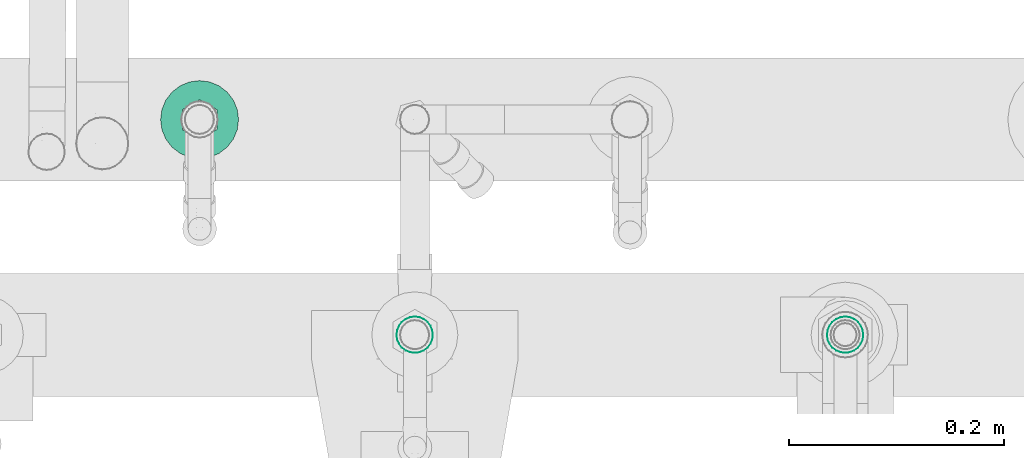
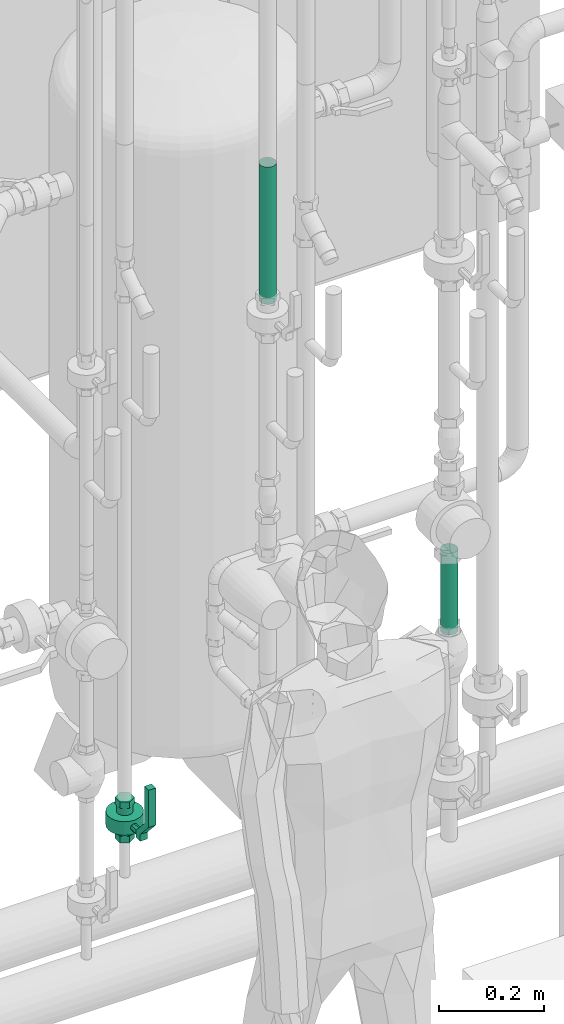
# One storey, part 270 of 374: 2 flow segments, 1 flow controller.
"""IFC2X3 building model written with IfcOpenShell, lengths in metres."""

from ifc_helpers import new_model, si_unit, direction, origin, place, context, subcontext, project, spatial, open_shell, surface_model, source, transform, mapped, element, save


model = new_model("IFC2X3")

# Units and contexts
model_context = context("Model", 3, precision=1e-05, world=origin(), true_north=direction((-0.4480736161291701, 0.8939966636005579)))
body_context = subcontext(model_context, "Body", "Model", "MODEL_VIEW")
ifc_project = project(units=[si_unit("LENGTHUNIT", "METRE"), si_unit("AREAUNIT", "SQUARE_METRE"), si_unit("VOLUMEUNIT", "CUBIC_METRE"), si_unit("PLANEANGLEUNIT", "RADIAN"), si_unit("THERMODYNAMICTEMPERATUREUNIT", "KELVIN"), si_unit("MASSUNIT", "GRAM", prefix="KILO"), si_unit("TIMEUNIT", "SECOND")], contexts=[model_context])

# Site, building, storey
site_placement = place(None, origin())
site = spatial("IfcSite", under=ifc_project, at=site_placement, Name="Site 1", CompositionType="ELEMENT")
building_placement = place(site_placement, origin())
building = spatial("IfcBuilding", under=site, at=building_placement, Name="Undefined", CompositionType="ELEMENT")
storey_placement = place(building_placement, origin())
storey = spatial("IfcBuildingStorey", under=building, at=storey_placement, Name="Rez de chauss\x8ee", CompositionType="ELEMENT", Elevation=0.0)

# Flow controller
shared_shape_1 = source(origin(), body_context, "Body", "SurfaceModel", [
    surface_model("IfcFaceBasedSurfaceModel", [(0.0, 0.0, 0.0), (0.016000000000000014, 0.0, 0.0), (0.016000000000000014, 0.015999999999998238, 0.0), (0.0, 0.015999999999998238, 0.0), (0.016000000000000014, 0.0, 0.016000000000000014), (0.016000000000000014, 0.015999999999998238, 0.016000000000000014), (0.0, 0.0, 0.016000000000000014), (0.0, 0.015999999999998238, 0.016000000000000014), (-0.03533333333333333, 0.0, 0.04800000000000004), (-0.03533333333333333, 0.015999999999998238, 0.04800000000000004), (-0.122, 0.0, 0.04800000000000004), (-0.122, 0.015999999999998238, 0.04800000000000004), (-0.122, 0.0, 0.03200000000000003), (-0.122, 0.015999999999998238, 0.03200000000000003), (-0.03533333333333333, 0.0, 0.03200000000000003), (-0.03533333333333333, 0.015999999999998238, 0.03200000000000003), (0.055499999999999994, 0.02400000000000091, -0.06623760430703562), (0.055499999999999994, 0.02400000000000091, -0.04776239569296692), (0.04099999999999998, 0.02400000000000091, -0.04776239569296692), (0.04099999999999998, 0.02400000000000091, -0.06623760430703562), (0.055499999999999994, 0.008000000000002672, -0.07547520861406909), (0.04099999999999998, 0.008000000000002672, -0.07547520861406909), (0.055499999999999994, -0.008000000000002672, -0.06623760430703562), (0.04099999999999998, -0.008000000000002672, -0.06623760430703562), (0.055499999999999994, -0.008000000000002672, -0.04776239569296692), (0.04099999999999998, -0.008000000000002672, -0.04776239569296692), (0.055499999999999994, 0.008000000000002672, -0.03852479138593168), (0.04099999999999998, 0.008000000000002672, -0.03852479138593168), (0.04099999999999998, -0.008000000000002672, -0.057000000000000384), (0.04099999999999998, -0.007454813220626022, -0.05285889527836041), (0.023833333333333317, -0.007454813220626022, -0.05285889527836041), (0.023833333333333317, -0.008000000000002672, -0.057000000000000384), (0.04099999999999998, -0.005856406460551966, -0.049000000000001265), (0.023833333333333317, -0.005856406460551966, -0.049000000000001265), (0.04099999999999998, -0.0033137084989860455, -0.04568629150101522), (0.023833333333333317, -0.0033137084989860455, -0.04568629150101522), (0.04099999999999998, 0.0, -0.0431435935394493), (0.023833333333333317, 0.0, -0.0431435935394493), (0.04099999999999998, 0.003858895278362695, -0.04154518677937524), (0.023833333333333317, 0.003858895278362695, -0.04154518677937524), (0.04099999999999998, 0.008000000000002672, -0.04100000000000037), (0.023833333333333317, 0.008000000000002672, -0.04100000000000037), (0.04099999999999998, 0.012141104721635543, -0.04154518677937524), (0.023833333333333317, 0.012141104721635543, -0.04154518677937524), (0.04099999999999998, 0.015999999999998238, -0.0431435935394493), (0.023833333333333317, 0.015999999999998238, -0.0431435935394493), (0.04099999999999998, 0.019313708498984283, -0.04568629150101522), (0.023833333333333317, 0.019313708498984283, -0.04568629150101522), (0.04099999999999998, 0.021856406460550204, -0.049000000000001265), (0.023833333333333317, 0.021856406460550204, -0.049000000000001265), (0.04099999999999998, 0.02345481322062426, -0.05285889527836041), (0.023833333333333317, 0.02345481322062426, -0.05285889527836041), (0.04099999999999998, 0.02400000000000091, -0.057000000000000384), (0.023833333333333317, 0.02400000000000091, -0.057000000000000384), (0.04099999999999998, 0.02345481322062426, -0.06114110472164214), (0.023833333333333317, 0.02345481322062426, -0.06114110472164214), (0.04099999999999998, 0.021856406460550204, -0.06500000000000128), (0.023833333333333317, 0.021856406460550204, -0.06500000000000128), (0.04099999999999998, 0.019313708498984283, -0.06831370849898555), (0.023833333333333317, 0.019313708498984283, -0.06831370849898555), (0.04099999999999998, 0.015999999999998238, -0.07085640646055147), (0.023833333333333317, 0.015999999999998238, -0.07085640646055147), (0.04099999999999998, 0.012141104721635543, -0.07245481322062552), (0.023833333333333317, 0.012141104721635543, -0.07245481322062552), (0.04099999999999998, 0.008000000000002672, -0.0730000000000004), (0.023833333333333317, 0.008000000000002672, -0.0730000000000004), (0.04099999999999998, 0.003858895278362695, -0.07245481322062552), (0.023833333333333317, 0.003858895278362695, -0.07245481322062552), (0.04099999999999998, 0.0, -0.07085640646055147), (0.023833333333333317, 0.0, -0.07085640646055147), (0.04099999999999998, -0.0033137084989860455, -0.06831370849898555), (0.023833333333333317, -0.0033137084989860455, -0.06831370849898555), (0.04099999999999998, -0.005856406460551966, -0.06500000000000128), (0.023833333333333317, -0.005856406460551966, -0.06500000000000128), (0.04099999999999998, -0.007454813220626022, -0.06114110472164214), (0.023833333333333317, -0.007454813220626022, -0.06114110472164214), (0.023833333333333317, -0.028249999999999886, -0.057000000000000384), (0.023833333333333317, -0.027014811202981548, -0.047617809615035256), (-0.007833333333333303, -0.027014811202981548, -0.047617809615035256), (-0.007833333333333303, -0.028249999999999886, -0.057000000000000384), (0.023833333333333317, -0.023393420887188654, -0.03887500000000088), (-0.007833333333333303, -0.023393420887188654, -0.03887500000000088), (0.023833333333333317, -0.017632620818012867, -0.0313673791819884), (-0.007833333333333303, -0.017632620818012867, -0.0313673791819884), (0.023833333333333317, -0.01012500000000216, -0.025606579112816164), (-0.007833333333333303, -0.01012500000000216, -0.025606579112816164), (0.023833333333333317, -0.0013821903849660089, -0.021985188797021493), (-0.007833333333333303, -0.0013821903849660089, -0.021985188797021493), (0.023833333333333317, 0.008000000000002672, -0.02075000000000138), (-0.007833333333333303, 0.008000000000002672, -0.02075000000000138), (0.023833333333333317, 0.017382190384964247, -0.021985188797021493), (-0.007833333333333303, 0.017382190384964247, -0.021985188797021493), (0.023833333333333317, 0.026125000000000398, -0.025606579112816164), (-0.007833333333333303, 0.026125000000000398, -0.025606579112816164), (0.023833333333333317, 0.033632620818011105, -0.0313673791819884), (-0.007833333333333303, 0.033632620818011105, -0.0313673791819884), (0.023833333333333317, 0.03939342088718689, -0.03887500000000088), (-0.007833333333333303, 0.03939342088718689, -0.03887500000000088), (0.023833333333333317, 0.043014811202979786, -0.047617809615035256), (-0.007833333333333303, 0.043014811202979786, -0.047617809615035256), (0.023833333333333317, 0.044249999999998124, -0.057000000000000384), (-0.007833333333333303, 0.044249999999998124, -0.057000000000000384), (0.023833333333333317, 0.043014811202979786, -0.06638219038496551), (-0.007833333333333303, 0.043014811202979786, -0.06638219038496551), (0.023833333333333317, 0.03939342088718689, -0.07512499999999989), (-0.007833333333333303, 0.03939342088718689, -0.07512499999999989), (0.023833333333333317, 0.033632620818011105, -0.08263262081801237), (-0.007833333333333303, 0.033632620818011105, -0.08263262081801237), (0.023833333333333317, 0.026125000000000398, -0.08839342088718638), (-0.007833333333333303, 0.026125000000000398, -0.08839342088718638), (0.023833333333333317, 0.017382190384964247, -0.09201481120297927), (-0.007833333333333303, 0.017382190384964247, -0.09201481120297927), (0.023833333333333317, 0.008000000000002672, -0.09325000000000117), (-0.007833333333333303, 0.008000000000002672, -0.09325000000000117), (0.023833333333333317, -0.0013821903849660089, -0.09201481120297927), (-0.007833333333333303, -0.0013821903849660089, -0.09201481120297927), (0.023833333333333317, -0.01012500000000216, -0.08839342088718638), (-0.007833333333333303, -0.01012500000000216, -0.08839342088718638), (0.023833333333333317, -0.017632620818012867, -0.08263262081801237), (-0.007833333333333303, -0.017632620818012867, -0.08263262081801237), (0.023833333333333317, -0.023393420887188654, -0.07512499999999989), (-0.007833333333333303, -0.023393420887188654, -0.07512499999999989), (0.023833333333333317, -0.027014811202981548, -0.06638219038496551), (-0.007833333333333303, -0.027014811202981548, -0.06638219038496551), (0.023833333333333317, 0.008000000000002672, -0.057000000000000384), (-0.007833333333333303, 0.008000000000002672, -0.057000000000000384), (-0.007833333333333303, -0.008000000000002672, -0.057000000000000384), (-0.007833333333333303, -0.007454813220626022, -0.05285889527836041), (-0.024999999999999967, -0.007454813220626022, -0.05285889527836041), (-0.024999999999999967, -0.008000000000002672, -0.057000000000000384), (-0.007833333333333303, -0.005856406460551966, -0.049000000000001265), (-0.024999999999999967, -0.005856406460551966, -0.049000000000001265), (-0.007833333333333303, -0.0033137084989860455, -0.04568629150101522), (-0.024999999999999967, -0.0033137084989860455, -0.04568629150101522), (-0.007833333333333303, 0.0, -0.0431435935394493), (-0.024999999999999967, 0.0, -0.0431435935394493), (-0.007833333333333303, 0.003858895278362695, -0.04154518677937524), (-0.024999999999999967, 0.003858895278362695, -0.04154518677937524), (-0.007833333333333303, 0.008000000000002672, -0.04100000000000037), (-0.024999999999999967, 0.008000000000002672, -0.04100000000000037), (-0.007833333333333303, 0.012141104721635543, -0.04154518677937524), (-0.024999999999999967, 0.012141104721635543, -0.04154518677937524), (-0.007833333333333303, 0.015999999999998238, -0.0431435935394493), (-0.024999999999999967, 0.015999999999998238, -0.0431435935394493), (-0.007833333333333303, 0.019313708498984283, -0.04568629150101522), (-0.024999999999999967, 0.019313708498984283, -0.04568629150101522), (-0.007833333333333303, 0.021856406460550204, -0.049000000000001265), (-0.024999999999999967, 0.021856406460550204, -0.049000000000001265), (-0.007833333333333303, 0.02345481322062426, -0.05285889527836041), (-0.024999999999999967, 0.02345481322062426, -0.05285889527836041), (-0.007833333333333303, 0.02400000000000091, -0.057000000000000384), (-0.024999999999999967, 0.02400000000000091, -0.057000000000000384), (-0.007833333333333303, 0.02345481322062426, -0.06114110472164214), (-0.024999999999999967, 0.02345481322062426, -0.06114110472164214), (-0.007833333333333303, 0.021856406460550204, -0.06500000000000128), (-0.024999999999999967, 0.021856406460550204, -0.06500000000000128), (-0.007833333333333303, 0.019313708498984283, -0.06831370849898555), (-0.024999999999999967, 0.019313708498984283, -0.06831370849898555), (-0.007833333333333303, 0.015999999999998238, -0.07085640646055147), (-0.024999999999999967, 0.015999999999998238, -0.07085640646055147), (-0.007833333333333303, 0.012141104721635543, -0.07245481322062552), (-0.024999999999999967, 0.012141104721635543, -0.07245481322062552), (-0.007833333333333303, 0.008000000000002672, -0.0730000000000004), (-0.024999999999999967, 0.008000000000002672, -0.0730000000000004), (-0.007833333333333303, 0.003858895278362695, -0.07245481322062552), (-0.024999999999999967, 0.003858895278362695, -0.07245481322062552), (-0.007833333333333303, 0.0, -0.07085640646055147), (-0.024999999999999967, 0.0, -0.07085640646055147), (-0.007833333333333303, -0.0033137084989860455, -0.06831370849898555), (-0.024999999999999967, -0.0033137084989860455, -0.06831370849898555), (-0.007833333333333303, -0.005856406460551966, -0.06500000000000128), (-0.024999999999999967, -0.005856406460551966, -0.06500000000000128), (-0.007833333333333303, -0.007454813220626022, -0.06114110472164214), (-0.024999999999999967, -0.007454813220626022, -0.06114110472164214), (-0.024999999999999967, 0.02400000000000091, -0.06623760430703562), (-0.024999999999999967, 0.02400000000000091, -0.04776239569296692), (-0.039499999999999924, 0.02400000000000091, -0.04776239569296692), (-0.039499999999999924, 0.02400000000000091, -0.06623760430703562), (-0.024999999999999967, 0.008000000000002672, -0.07547520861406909), (-0.039499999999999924, 0.008000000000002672, -0.07547520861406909), (-0.024999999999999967, -0.008000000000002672, -0.06623760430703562), (-0.039499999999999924, -0.008000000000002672, -0.06623760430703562), (-0.024999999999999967, -0.008000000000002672, -0.04776239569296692), (-0.039499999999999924, -0.008000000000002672, -0.04776239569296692), (-0.024999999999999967, 0.008000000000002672, -0.03852479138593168), (-0.039499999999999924, 0.008000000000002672, -0.03852479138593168), (0.0, 0.007999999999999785, -0.057000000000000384), (0.002343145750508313, 0.002343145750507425, -0.057000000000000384), (0.002343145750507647, 0.002343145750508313, 0.0), (0.0, 0.008, 0.0), (0.008000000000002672, 0.0, -0.057000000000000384), (0.008000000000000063, 0.0, 0.0), (0.01365685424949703, 0.002343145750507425, -0.057000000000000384), (0.013656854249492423, 0.002343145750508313, 0.0), (0.016000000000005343, 0.007999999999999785, -0.057000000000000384), (0.016000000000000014, 0.008000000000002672, 0.0), (0.01365685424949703, 0.013656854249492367, -0.057000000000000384), (0.013656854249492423, 0.013656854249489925, 0.0), (0.008000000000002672, 0.015999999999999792, -0.057000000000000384), (0.008000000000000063, 0.015999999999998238, 0.0), (0.002343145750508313, 0.013656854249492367, -0.057000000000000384), (0.002343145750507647, 0.013656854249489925, 0.0)], [open_shell([[[0, 1, 2, 3]], [[1, 4, 5, 2]], [[4, 6, 7, 5]], [[6, 8, 9, 7]], [[8, 10, 11, 9]], [[10, 12, 13, 11]], [[12, 14, 15, 13]], [[14, 0, 3, 15]], [[3, 7, 2]], [[7, 3, 9]], [[15, 9, 3]], [[9, 15, 11]], [[13, 11, 15]], [[5, 2, 7]], [[1, 6, 0]], [[8, 0, 6]], [[0, 8, 14]], [[10, 14, 8]], [[14, 10, 12]], [[6, 1, 4]], [[16, 17, 18, 19]], [[20, 16, 19, 21]], [[22, 20, 21, 23]], [[24, 22, 23, 25]], [[26, 24, 25, 27]], [[17, 26, 27, 18]], [[17, 16, 20]], [[17, 20, 22]], [[17, 22, 24]], [[17, 24, 26]], [[18, 21, 19]], [[18, 23, 21]], [[18, 25, 23]], [[18, 27, 25]], [[28, 29, 30, 31]], [[29, 32, 33, 30]], [[32, 34, 35, 33]], [[34, 36, 37, 35]], [[36, 38, 39, 37]], [[38, 40, 41, 39]], [[40, 42, 43, 41]], [[42, 44, 45, 43]], [[44, 46, 47, 45]], [[46, 48, 49, 47]], [[48, 50, 51, 49]], [[50, 52, 53, 51]], [[52, 54, 55, 53]], [[54, 56, 57, 55]], [[56, 58, 59, 57]], [[58, 60, 61, 59]], [[60, 62, 63, 61]], [[62, 64, 65, 63]], [[64, 66, 67, 65]], [[66, 68, 69, 67]], [[68, 70, 71, 69]], [[70, 72, 73, 71]], [[72, 74, 75, 73]], [[74, 28, 31, 75]], [[76, 77, 78, 79]], [[77, 80, 81, 78]], [[80, 82, 83, 81]], [[82, 84, 85, 83]], [[84, 86, 87, 85]], [[86, 88, 89, 87]], [[88, 90, 91, 89]], [[90, 92, 93, 91]], [[92, 94, 95, 93]], [[94, 96, 97, 95]], [[96, 98, 99, 97]], [[98, 100, 101, 99]], [[100, 102, 103, 101]], [[102, 104, 105, 103]], [[104, 106, 107, 105]], [[106, 108, 109, 107]], [[108, 110, 111, 109]], [[110, 112, 113, 111]], [[112, 114, 115, 113]], [[114, 116, 117, 115]], [[116, 118, 119, 117]], [[118, 120, 121, 119]], [[120, 122, 123, 121]], [[122, 76, 79, 123]], [[124, 77, 76]], [[124, 80, 77]], [[124, 82, 80]], [[124, 84, 82]], [[124, 86, 84]], [[124, 88, 86]], [[124, 90, 88]], [[124, 92, 90]], [[124, 94, 92]], [[124, 96, 94]], [[124, 98, 96]], [[124, 100, 98]], [[124, 102, 100]], [[124, 104, 102]], [[124, 106, 104]], [[124, 108, 106]], [[124, 110, 108]], [[124, 112, 110]], [[124, 114, 112]], [[124, 116, 114]], [[124, 118, 116]], [[124, 120, 118]], [[124, 122, 120]], [[124, 76, 122]], [[125, 123, 79]], [[125, 121, 123]], [[125, 119, 121]], [[125, 117, 119]], [[125, 115, 117]], [[125, 113, 115]], [[125, 111, 113]], [[125, 109, 111]], [[125, 107, 109]], [[125, 105, 107]], [[125, 103, 105]], [[125, 101, 103]], [[125, 99, 101]], [[125, 97, 99]], [[125, 95, 97]], [[125, 93, 95]], [[125, 91, 93]], [[125, 89, 91]], [[125, 87, 89]], [[125, 85, 87]], [[125, 83, 85]], [[125, 81, 83]], [[125, 78, 81]], [[125, 79, 78]], [[126, 127, 128, 129]], [[127, 130, 131, 128]], [[130, 132, 133, 131]], [[132, 134, 135, 133]], [[134, 136, 137, 135]], [[136, 138, 139, 137]], [[138, 140, 141, 139]], [[140, 142, 143, 141]], [[142, 144, 145, 143]], [[144, 146, 147, 145]], [[146, 148, 149, 147]], [[148, 150, 151, 149]], [[150, 152, 153, 151]], [[152, 154, 155, 153]], [[154, 156, 157, 155]], [[156, 158, 159, 157]], [[158, 160, 161, 159]], [[160, 162, 163, 161]], [[162, 164, 165, 163]], [[164, 166, 167, 165]], [[166, 168, 169, 167]], [[168, 170, 171, 169]], [[170, 172, 173, 171]], [[172, 126, 129, 173]], [[174, 175, 176, 177]], [[178, 174, 177, 179]], [[180, 178, 179, 181]], [[182, 180, 181, 183]], [[184, 182, 183, 185]], [[175, 184, 185, 176]], [[175, 174, 178]], [[175, 178, 180]], [[175, 180, 182]], [[175, 182, 184]], [[176, 179, 177]], [[176, 181, 179]], [[176, 183, 181]], [[176, 185, 183]], [[186, 187, 188, 189]], [[187, 190, 191, 188]], [[190, 192, 193, 191]], [[192, 194, 195, 193]], [[194, 196, 197, 195]], [[196, 198, 199, 197]], [[198, 200, 201, 199]], [[200, 186, 189, 201]]])]),
])
flow_controller_placement = place(storey_placement, origin())
element("IfcFlowController", 1, at=flow_controller_placement, inside=storey, Name="Robinet à boisseau sphérique", ObjectType="Robinet à boisseau sphérique", context=body_context, shape_type="MappedRepresentation", body=[
    mapped(shared_shape_1, transform((53.04956201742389, 10.86103704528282, 0.4981499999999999), x_axis=(0.0, 0.0, -1.0), y_axis=(1.0, 0.0, 0.0), z_axis=(0.0, -1.0, 0.0))),
])

# Flow segments
shared_shape_2 = source(origin(), body_context, "Body", "SurfaceModel", [
    surface_model("IfcFaceBasedSurfaceModel", [(0.0, 0.004398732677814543, 0.0), (0.0, 0.0, 0.0), (0.31983882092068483, 8.8817842e-16, 0.0), (0.31983882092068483, 0.004398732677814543, 0.0), (0.0, -0.004248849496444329, -0.00113847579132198), (0.31983882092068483, -0.004248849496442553, -0.0011384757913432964), (0.0, -0.008058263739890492, -0.003337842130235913), (0.31983882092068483, -0.008058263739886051, -0.003337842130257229), (0.0, -0.01116863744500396, -0.0064482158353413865), (0.31983882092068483, -0.01116863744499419, -0.006448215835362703), (0.0, -0.013368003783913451, -0.010257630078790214), (0.31983882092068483, -0.013368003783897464, -0.010257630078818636), (0.0, -0.014506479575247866, -0.014506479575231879), (0.31983882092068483, -0.014506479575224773, -0.0145064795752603), (0.0, -0.01450647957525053, -0.01890521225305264), (0.31983882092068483, -0.014506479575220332, -0.018905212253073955), (0.0, -0.013368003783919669, -0.023154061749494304), (0.31983882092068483, -0.013368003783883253, -0.023154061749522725), (0.0, -0.011168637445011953, -0.02696347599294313), (0.31983882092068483, -0.011168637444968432, -0.026963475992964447), (0.0, -0.008058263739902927, -0.03007384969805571), (0.31983882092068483, -0.008058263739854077, -0.03007384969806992), (0.0, -0.004248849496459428, -0.03227321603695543), (0.31983882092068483, -0.004248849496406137, -0.03227321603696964), (0.0, -1.5099033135e-14, -0.03341169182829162), (0.31983882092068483, 3.8191672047e-14, -0.03341169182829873), (0.0, 0.00439873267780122, -0.03341169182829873), (0.31983882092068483, 0.004398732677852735, -0.03341169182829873), (0.0, 0.008647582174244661, -0.03227321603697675), (0.31983882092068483, 0.008647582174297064, -0.03227321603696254), (0.0, 0.012456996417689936, -0.030073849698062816), (0.31983882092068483, 0.012456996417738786, -0.0300738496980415), (0.0, 0.01556737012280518, -0.026963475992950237), (0.31983882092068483, 0.015567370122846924, -0.026963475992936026), (0.0, 0.017766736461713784, -0.023154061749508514), (0.31983882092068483, 0.01776673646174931, -0.023154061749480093), (0.0, 0.018905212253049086, -0.01890521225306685), (0.31983882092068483, 0.018905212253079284, -0.018905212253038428), (0.0, 0.018905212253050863, -0.01450647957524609), (0.31983882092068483, 0.01890521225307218, -0.014506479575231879), (0.0, 0.01776673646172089, -0.01025763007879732), (0.31983882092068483, 0.017766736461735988, -0.010257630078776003), (0.0, 0.015567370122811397, -0.006448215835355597), (0.31983882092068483, 0.015567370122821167, -0.006448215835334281), (0.0, 0.012456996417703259, -0.0033378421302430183), (0.31983882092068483, 0.012456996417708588, -0.003337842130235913), (0.0, 0.00864758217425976, -0.0011384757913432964), (0.31983882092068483, 0.00864758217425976, -0.0011384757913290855)], [open_shell([[[0, 1, 2, 3]], [[1, 4, 5, 2]], [[4, 6, 7, 5]], [[6, 8, 9, 7]], [[8, 10, 11, 9]], [[10, 12, 13, 11]], [[12, 14, 15, 13]], [[14, 16, 17, 15]], [[16, 18, 19, 17]], [[18, 20, 21, 19]], [[20, 22, 23, 21]], [[22, 24, 25, 23]], [[24, 26, 27, 25]], [[26, 28, 29, 27]], [[28, 30, 31, 29]], [[30, 32, 33, 31]], [[32, 34, 35, 33]], [[34, 36, 37, 35]], [[36, 38, 39, 37]], [[38, 40, 41, 39]], [[40, 42, 43, 41]], [[42, 44, 45, 43]], [[44, 46, 47, 45]], [[46, 0, 3, 47]]])]),
])
flow_segment_1_placement = place(storey_placement, origin())
element("IfcFlowSegment", 2, at=flow_segment_1_placement, inside=storey, Name="Tube acier d'après DIN 2448", ObjectType="Tube acier d'après DIN 2448", context=body_context, shape_type="MappedRepresentation", body=[
    mapped(shared_shape_2, transform((53.27383786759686, 10.722398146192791, 1.7496890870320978), x_axis=(0.0, 0.0, 1.0), y_axis=(0.13052619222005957, -0.9914448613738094, 0.0), z_axis=(0.9914448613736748, 0.13052619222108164, 0.0))),
])
shared_shape_3 = source(origin(), body_context, "Body", "SurfaceModel", [
    surface_model("IfcFaceBasedSurfaceModel", [(0.0, 0.004398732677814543, 0.0), (0.0, 0.0, 0.0), (0.19023703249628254, 0.0, 0.0), (0.19023703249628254, 0.004398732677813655, -8.8817842e-16), (0.0, -0.004248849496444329, -0.00113847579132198), (0.19023703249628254, -0.0042488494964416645, -0.0011384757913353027), (0.0, -0.008058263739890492, -0.003337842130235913), (0.19023703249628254, -0.008058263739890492, -0.0033378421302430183), (0.0, -0.01116863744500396, -0.0064482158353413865), (0.19023703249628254, -0.011168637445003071, -0.006448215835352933), (0.0, -0.013368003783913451, -0.010257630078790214), (0.19023703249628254, -0.013368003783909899, -0.01025763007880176), (0.0, -0.014506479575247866, -0.014506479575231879), (0.19023703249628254, -0.014506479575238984, -0.014506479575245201), (0.0, -0.01450647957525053, -0.01890521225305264), (0.19023703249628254, -0.014506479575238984, -0.018905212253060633), (0.0, -0.013368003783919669, -0.023154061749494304), (0.19023703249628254, -0.013368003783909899, -0.023154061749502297), (0.0, -0.011168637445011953, -0.02696347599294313), (0.19023703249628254, -0.011168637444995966, -0.026963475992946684), (0.0, -0.008058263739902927, -0.03007384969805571), (0.19023703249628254, -0.008058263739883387, -0.03007384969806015), (0.0, -0.004248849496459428, -0.03227321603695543), (0.19023703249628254, -0.0042488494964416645, -0.03227321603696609), (0.0, -1.5099033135e-14, -0.03341169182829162), (0.19023703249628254, 7.105427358e-15, -0.03341169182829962), (0.0, 0.00439873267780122, -0.03341169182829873), (0.19023703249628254, 0.00439873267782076, -0.03341169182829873), (0.0, 0.008647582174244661, -0.03227321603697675), (0.19023703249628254, 0.00864758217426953, -0.03227321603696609), (0.0, 0.012456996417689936, -0.030073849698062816), (0.19023703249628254, 0.012456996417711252, -0.03007384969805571), (0.0, 0.01556737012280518, -0.026963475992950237), (0.19023703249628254, 0.015567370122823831, -0.026963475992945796), (0.0, 0.017766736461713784, -0.023154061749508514), (0.19023703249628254, 0.017766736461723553, -0.02315406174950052), (0.0, 0.018905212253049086, -0.01890521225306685), (0.19023703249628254, 0.018905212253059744, -0.01890521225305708), (0.0, 0.018905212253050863, -0.01450647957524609), (0.19023703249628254, 0.01890521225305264, -0.014506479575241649), (0.0, 0.01776673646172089, -0.01025763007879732), (0.19023703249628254, 0.01776673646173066, -0.010257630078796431), (0.0, 0.015567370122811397, -0.006448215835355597), (0.19023703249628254, 0.015567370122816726, -0.006448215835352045), (0.0, 0.012456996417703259, -0.0033378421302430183), (0.19023703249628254, 0.012456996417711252, -0.003337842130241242), (0.0, 0.00864758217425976, -0.0011384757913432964), (0.19023703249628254, 0.008647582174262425, -0.0011384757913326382)], [open_shell([[[0, 1, 2, 3]], [[1, 4, 5, 2]], [[4, 6, 7, 5]], [[6, 8, 9, 7]], [[8, 10, 11, 9]], [[10, 12, 13, 11]], [[12, 14, 15, 13]], [[14, 16, 17, 15]], [[16, 18, 19, 17]], [[18, 20, 21, 19]], [[20, 22, 23, 21]], [[22, 24, 25, 23]], [[24, 26, 27, 25]], [[26, 28, 29, 27]], [[28, 30, 31, 29]], [[30, 32, 33, 31]], [[32, 34, 35, 33]], [[34, 36, 37, 35]], [[36, 38, 39, 37]], [[38, 40, 41, 39]], [[40, 42, 43, 41]], [[42, 44, 45, 43]], [[44, 46, 47, 45]], [[46, 0, 3, 47]]])]),
])
flow_segment_2_placement = place(storey_placement, origin())
element("IfcFlowSegment", 3, at=flow_segment_2_placement, inside=storey, Name="Tube acier d'après DIN 2448", ObjectType="Tube acier d'après DIN 2448", context=body_context, shape_type="MappedRepresentation", body=[
    mapped(shared_shape_3, transform((53.66192311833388, 10.701761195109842, 0.8388629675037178), x_axis=(0.0, 0.0, 1.0), y_axis=(-0.9914448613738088, -0.13052619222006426, 0.0), z_axis=(0.13052619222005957, -0.9914448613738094, 0.0))),
])

save(model, "model.ifc")
